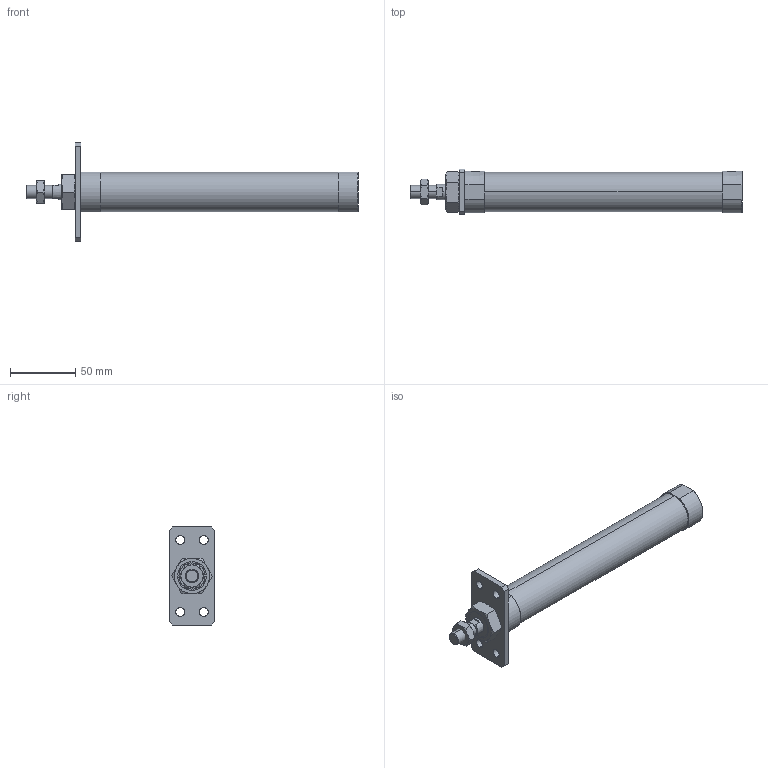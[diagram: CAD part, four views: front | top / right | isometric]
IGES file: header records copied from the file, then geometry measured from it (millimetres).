
Start section: SolidWorks IGES file using analytic representation for surfaces
Global section: file name: C:\Users\Toshiba\Desktop\JGND2-25-150-A.IGS; native system: SolidWorks 2014; preprocessor: SolidWorks 2014; author: Toshiba; date: 160804.104205; units: millimetre
Bounding box: 254 x 35 x 75 mm (x, y, z)
Surface area: 33835.5 mm2 (no closed solid volume)
Topology: 0 solids, 0 shells, 109 faces, 2000 edges, 1996 vertices
Faces by surface type: bspline 69, revolution 40
